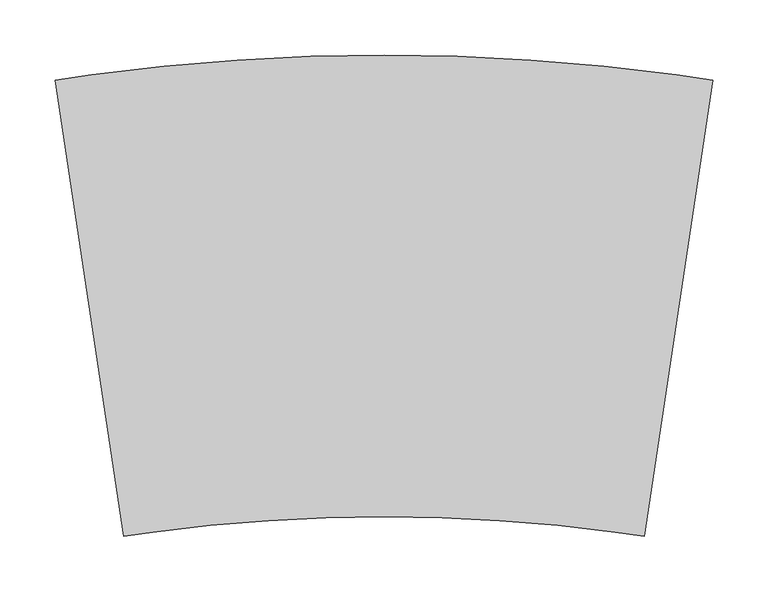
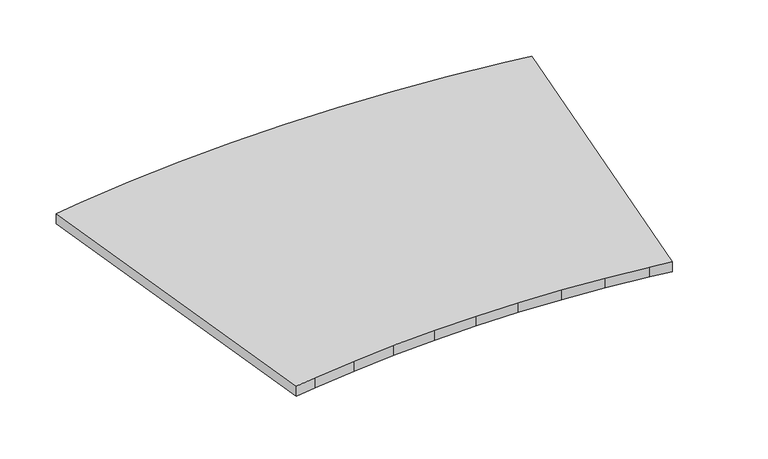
"""IFC4 building model written with IfcOpenShell, lengths in millimetres: proxy geometry, TECHNO_Решетка_R : РАП_Алюминиевая продольная/Белый RAL 9016."""

from ifc_helpers import new_model, si_unit, frame, origin, place, context, project, spatial, polyline, outline, extrude, source, transform, mapped, element, save


def mechanical_equipment_359a41bf(model_context):
    return source(origin(), model_context, "Body", "SweptSolid", [
        extrude(outline(polyline([(297.5110721, 186.534493), (235.3534657, -226.4136781), (209.3955484, -222.5064516), (157.2489308, -216.4195942), (104.9290031, -212.0670407), (52.4934291, -209.4535882), (0.0, -208.5821172), (-52.4934291, -209.4535882), (-104.9290031, -212.0670407), (-157.2489308, -216.4195942), (-209.3955484, -222.5064516), (-235.3534657, -226.4136781), (-297.5110721, 186.534493), (-264.6975854, 191.4736305), (-198.7788786, 199.1680465), (-132.6410899, 204.6701234), (-66.3571123, 207.973797), (0.0, 209.0754263), (66.3571123, 207.973797), (132.6410899, 204.6701234), (198.7788786, 199.1680465), (264.6975854, 191.4736305), (297.5110721, 186.534493)])), frame((0.0, 0.0, -13.0), z_axis=(0.0, 0.0, 1.0), x_axis=(1.0, 0.0, 0.0)), (0.0, 0.0, 1.0), 13.0),
    ])


if __name__ == "__main__":
    model = new_model("IFC4")
    model_context = context("Model", 3, world=origin())
    ifc_project = project(units=[si_unit("LENGTHUNIT", "METRE", prefix="MILLI")], contexts=[model_context])
    site = spatial("IfcSite", under=ifc_project)
    building = spatial("IfcBuilding", under=site)
    placement = place(None, origin())
    mechanical_equipment_shape = mechanical_equipment_359a41bf(model_context)
    element("IfcBuildingElementProxy", 1, Name="TECHNO_Решетка_R : РАП_Алюминиевая продольная/Белый RAL 9016", ObjectType="TECHNO_Решетка_R : РАП_Алюминиевая продольная/Белый RAL 9016", at=placement, inside=building, context=model_context, shape_type="MappedRepresentation", body=[
        mapped(mechanical_equipment_shape, transform((0.0, 0.0, 0.0), x_axis=(1.0, 0.0, 0.0), y_axis=(0.0, 1.0, 0.0), z_axis=(0.0, 0.0, 1.0))),
    ])
    save(model, "model.ifc")
